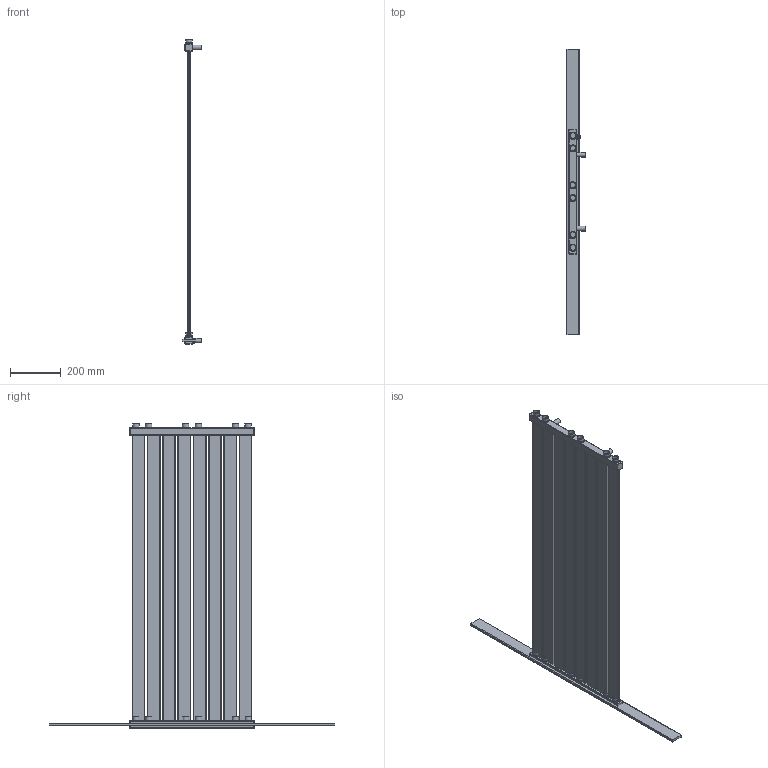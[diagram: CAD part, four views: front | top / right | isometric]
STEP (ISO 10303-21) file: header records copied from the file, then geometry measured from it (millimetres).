
FILE_DESCRIPTION( ( 'Unknown' ), '1' );
FILE_NAME( 'D:/RYSUNKI/RYSUNKI SOLID/SEJWAL/NOWE/PROFILE/SUMATRA-NEXT/SUMATRA-NEXT.stp', 'Unknown', ( 'Unknown' ), ( 'Unknown' ), 'XStep 1.0', 'Unknown', ' ' );
FILE_SCHEMA( ( 'automotive_design' ) );
Length unit declared in the file: millimetre
Products named in the file (6): Assem1; 30x30-490; P1120; 30x30-490-kpl; MOCOWANIE; ODPOWIETRZNIK
Bounding box: 75 x 1120 x 1195 mm (x, y, z)
Volume: 6850749 mm3; surface area: 1458775.2 mm2
Topology: 20 solids, 20 shells, 453 faces, 1101 edges, 672 vertices
Faces by surface type: cylinder 237, plane 132, sphere 32, torus 26, bspline 24, cone 2
Full cylindrical faces by diameter (mm): 4.066 x2, 18 x5, 20 x2, 22 x12, 26 x12
Entity records: 9595 total; most frequent: CARTESIAN_POINT 5214, DIRECTION 866, ORIENTED_EDGE 816, EDGE_CURVE 408, AXIS2_PLACEMENT_3D 365, VERTEX_POINT 263, EDGE_LOOP 214, FACE_OUTER_BOUND 205
